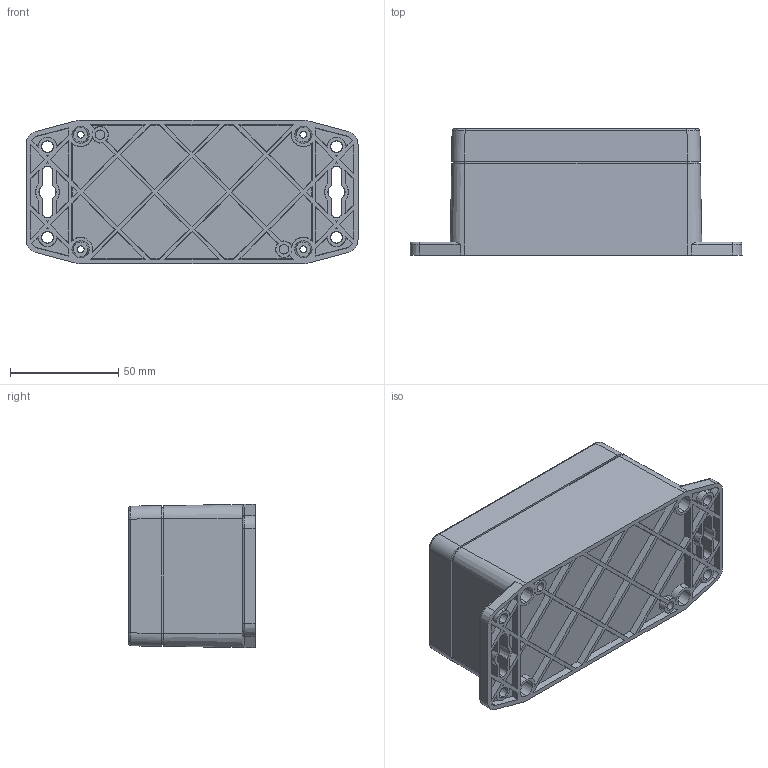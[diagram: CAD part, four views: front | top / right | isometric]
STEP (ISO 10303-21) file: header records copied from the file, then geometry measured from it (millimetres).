
FILE_DESCRIPTION (( 'STEP AP203' ), '1' );
FILE_NAME ('SF-212.STEP', '2017-09-18T06:13:20', ( '' ), ( '' ), 'SwSTEP 2.0', 'SolidWorks 2015', '' );
FILE_SCHEMA (( 'CONFIG_CONTROL_DESIGN' ));
Length unit declared in the file: millimetre
Products named in the file (3): SE-212-P-2; SF-212; SF-212-P-1
Assembly tree (2 placements, depth 2):
  SF-212
    SF-212-P-1
    SE-212-P-2
Bounding box: 153.54 x 58.48 x 66.52 mm (x, y, z)
Volume: 125948.4 mm3; surface area: 91065.5 mm2
Topology: 2 solids, 2 shells, 651 faces, 1676 edges, 1112 vertices
Faces by surface type: plane 363, cone 182, cylinder 78, bspline 24, torus 4
Entity records: 21193 total; most frequent: CARTESIAN_POINT 4940, ORIENTED_EDGE 3352, DIRECTION 3260, EDGE_CURVE 1676, AXIS2_PLACEMENT_3D 1156, VERTEX_POINT 1112, LINE 948, VECTOR 948
